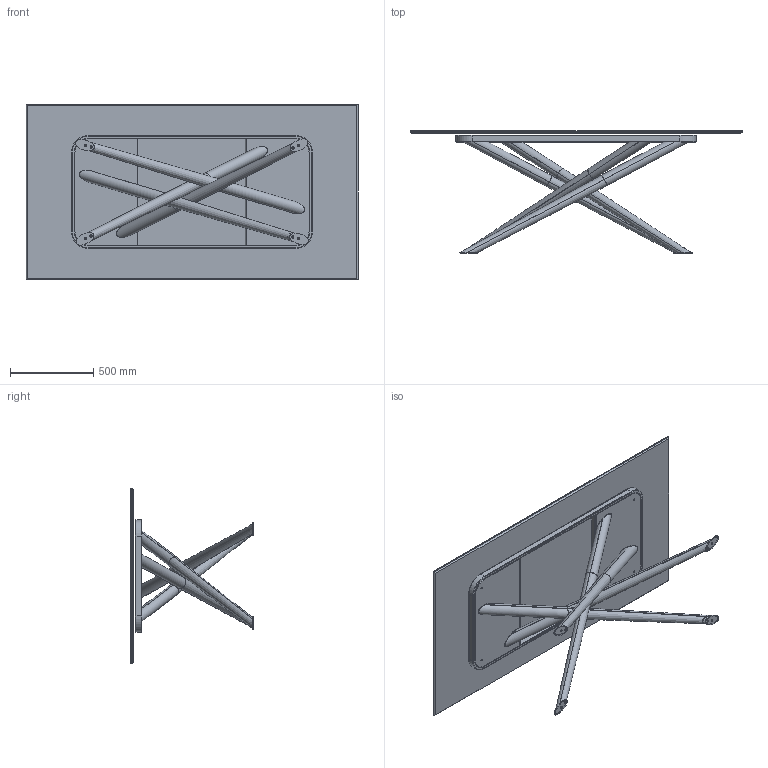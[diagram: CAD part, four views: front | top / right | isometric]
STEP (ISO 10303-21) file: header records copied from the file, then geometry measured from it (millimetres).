
FILE_DESCRIPTION (( 'STEP AP203' ), '1' );
FILE_NAME ('BA21C.STEP', '2024-08-08T06:21:38', ( '' ), ( '' ), 'SwSTEP 2.0', 'SolidWorks 2022', '' );
FILE_SCHEMA (( 'CONFIG_CONTROL_DESIGN' ));
Length unit declared in the file: millimetre
Products named in the file (8): M6xXXmm_HEX_M6x30mm HEX; K2XCMXX-00-Piani Rettangolari in ceramica_2000 x 1060; BAB100000-00-BALY BASE GREZZA L240 rettangolare; BAB100000_03-00-Telaio BALY L240_Default<A macchina>; TR Fastenings Ltd-M6_M6; BAB100000_01-00-Gambe saldate BALY 240_Default<A macchina>; BAB100000_02-00-piede per baly 240; BA21C
Assembly tree (18 placements, depth 3):
  BA21C
    K2XCMXX-00-Piani Rettangolari in ceramica_2000 x 1060
    BAB100000-00-BALY BASE GREZZA L240 rettangolare
      BAB100000_01-00-Gambe saldate BALY 240_Default<A macchina>
      BAB100000_03-00-Telaio BALY L240_Default<A macchina>
      BAB100000_02-00-piede per baly 240  x4
      TR Fastenings Ltd-M6_M6  x2
      M6xXXmm_HEX_M6x30mm HEX  x8
Bounding box: 2000 x 735 x 1060 mm (x, y, z)
Volume: 39525748 mm3; surface area: 12777658.8 mm2
Topology: 28 solids, 28 shells, 626 faces, 1296 edges, 720 vertices
Faces by surface type: plane 300, cylinder 172, cone 88, torus 48, bspline 18
Entity records: 10196 total; most frequent: CARTESIAN_POINT 1787, DIRECTION 1620, ORIENTED_EDGE 1428, EDGE_CURVE 714, AXIS2_PLACEMENT_3D 620, VERTEX_POINT 411, LINE 380, VECTOR 380
